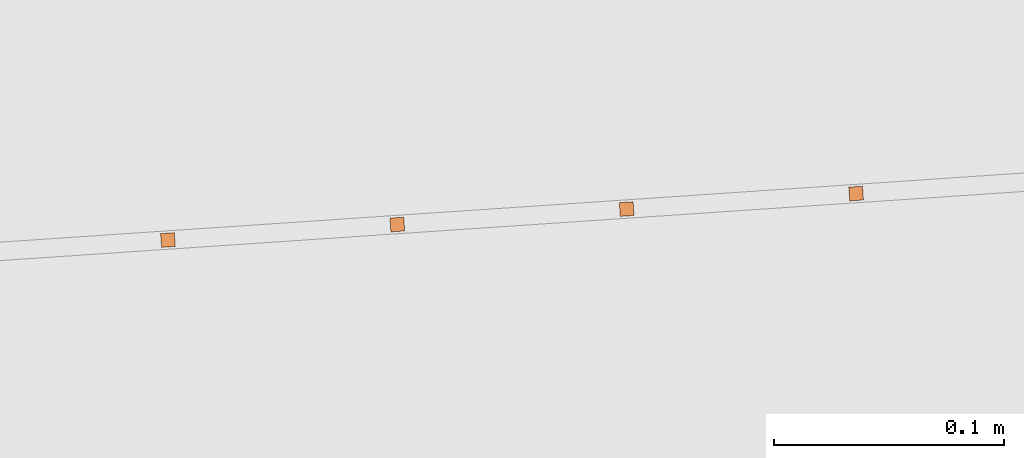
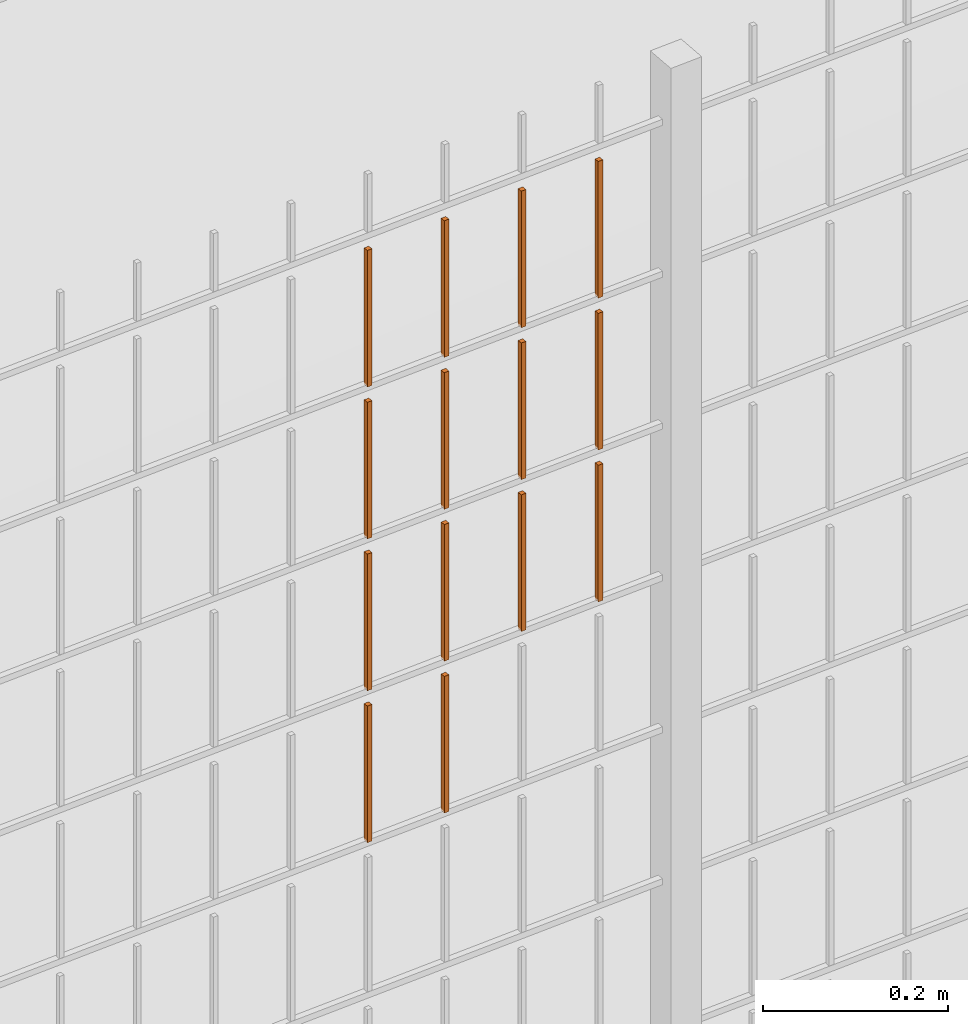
# One storey, part 218 of 1809: 14 proxies, 1 element without a shape of its own.
"""IFC2X3 building model written with IfcOpenShell, lengths in millimetres."""

import ifcopenshell
import ifcopenshell.guid

model = None  # the IFC model being written
_history = None  # IfcOwnerHistory: only IFC2X3 demands one
_inside = {}  # id of a spatial element -> (the spatial element, [elements in it])
_under = {}  # id of a project, library or spatial element -> (it, [spatial elements below it])
_declared = {}  # id of a project -> (the project, [libraries it declares])
_typed = {}  # id of a type object -> (the type object, [elements of that type])
_made_of = {}  # id of a material, layer set ... -> (it, [elements and type objects made of it])


def new_model(schema):
    """Start an empty IFC model of exactly this schema.

    Asked for "IFC4X3", IfcOpenShell would pick the latest addendum, in which some entities
    have other attributes; the version numbers below select the first issue.
    IFC2X3 requires an IfcOwnerHistory on every rooted entity: one is made here for all.
    """
    global model, _history
    if schema == "IFC4X3":
        model = ifcopenshell.file(schema_version=(4, 3, 0, 0))
    else:
        model = ifcopenshell.file(schema=schema)
    _inside.clear()
    _under.clear()
    _declared.clear()
    _typed.clear()
    _made_of.clear()
    _history = None
    if model.schema == "IFC2X3":
        org = make("IfcOrganization", Name="unknown")
        user = make(
            "IfcPersonAndOrganization",
            ThePerson=make("IfcPerson", FamilyName="unknown"),
            TheOrganization=org,
        )
        app = make(
            "IfcApplication",
            ApplicationDeveloper=org,
            Version="unknown",
            ApplicationFullName="unknown",
            ApplicationIdentifier="unknown",
        )
        _history = make(
            "IfcOwnerHistory",
            OwningUser=user,
            OwningApplication=app,
            ChangeAction="ADDED",
            CreationDate=0,
        )
    return model


def make(cls, **values):
    """One entity of the class cls with the attributes given. An attribute that is None is left unset."""
    return model.create_entity(
        cls, **{name: value for name, value in values.items() if value is not None}
    )


def entity(cls, *values):
    """Any entity or typed value of the class cls, its attributes in the order of the schema. None: left unset."""
    e = model.create_entity(cls)
    for i, value in enumerate(values):
        if value is not None:
            e[i] = value
    return e


def rooted(cls, **values):
    """An entity with a GlobalId (a new one), such as an element, a storey or a relation."""
    return make(cls, GlobalId=ifcopenshell.guid.new(), OwnerHistory=_history, **values)


def si_unit(unit_type, name, prefix=None):
    """IfcSIUnit, for example si_unit("LENGTHUNIT", "METRE", prefix="MILLI")."""
    return make("IfcSIUnit", UnitType=unit_type, Prefix=prefix, Name=name)


def converted_unit(unit_type, name, factor, base, dimensions=None, offset=None):
    """IfcConversionBasedUnit, such as the inch: factor (a typed value) times the base unit."""
    return make(
        "IfcConversionBasedUnit"
        if offset is None
        else "IfcConversionBasedUnitWithOffset",
        ConversionOffset=offset,
        Dimensions=None
        if dimensions is None
        else entity("IfcDimensionalExponents", *dimensions),
        UnitType=unit_type,
        Name=name,
        ConversionFactor=make(
            "IfcMeasureWithUnit", ValueComponent=factor, UnitComponent=base
        ),
    )


def derived_unit(unit_type, elements):
    """IfcDerivedUnit: a product of units, each with its exponent."""
    return make(
        "IfcDerivedUnit",
        Elements=[
            make("IfcDerivedUnitElement", Unit=unit, Exponent=power)
            for unit, power in elements
        ],
        UnitType=unit_type,
    )


def money_unit(currency):
    """IfcMonetaryUnit."""
    return make("IfcMonetaryUnit", Currency=currency)


def assignment(units):
    """IfcUnitAssignment: the units of a project."""
    return None if units is None else make("IfcUnitAssignment", Units=units)


def point(xyz):
    """IfcCartesianPoint."""
    return None if xyz is None else make("IfcCartesianPoint", Coordinates=xyz)


def direction(xyz):
    """IfcDirection."""
    return None if xyz is None else make("IfcDirection", DirectionRatios=xyz)


def frame(location, z_axis=None, x_axis=None):
    """IfcAxis2Placement3D, a coordinate frame: its origin and axes. An axis left out is left unset."""
    return make(
        "IfcAxis2Placement3D",
        Location=point(location),
        Axis=direction(z_axis),
        RefDirection=direction(x_axis),
    )


def origin_with_axes():
    """The frame at (0, 0, 0) with the z axis (0, 0, 1) and the x axis (1, 0, 0) written out."""
    return frame((0.0, 0.0, 0.0), z_axis=(0.0, 0.0, 1.0), x_axis=(1.0, 0.0, 0.0))


def place(relative_to, where):
    """IfcLocalPlacement: puts the frame where relative to a parent placement (None: the world)."""
    return make(
        "IfcLocalPlacement", PlacementRelTo=relative_to, RelativePlacement=where
    )


def context(
    kind, dimensions, precision=None, world=None, true_north=None, identifier=None
):
    """IfcGeometricRepresentationContext, for example the 3D "Model" context."""
    return make(
        "IfcGeometricRepresentationContext",
        ContextIdentifier=identifier,
        ContextType=kind,
        CoordinateSpaceDimension=dimensions,
        Precision=precision,
        WorldCoordinateSystem=world,
        TrueNorth=true_north,
    )


def subcontext(parent, identifier, kind, view, scale=None):
    """IfcGeometricRepresentationSubContext, for example "Body" below "Model"."""
    return make(
        "IfcGeometricRepresentationSubContext",
        ContextIdentifier=identifier,
        ContextType=kind,
        ParentContext=parent,
        TargetScale=scale,
        TargetView=view,
    )


def project(units=None, contexts=None):
    """IfcProject with its units and contexts."""
    return rooted(
        "IfcProject",
        Name="project",
        RepresentationContexts=contexts,
        UnitsInContext=assignment(units),
    )


def spatial(cls, under=None, at=None, **own):
    """A site, building, storey or space (cls), placed at a placement, below another one or the project."""
    s = rooted(cls, ObjectPlacement=at, **own)
    if under is not None:
        _under.setdefault(under.id(), (under, []))[1].append(s)
    return s


def faces_of(points, faces, orient=None, outer=None):
    """IfcFace entities. A face is a list of loops; a loop is a list of indices into points, from 0.

    orient and outer hold one flag for each loop. By default every Orientation is true, the
    first loop of a face is its IfcFaceOuterBound and the others are IfcFaceBound.
    """
    made = []
    for i, loops in enumerate(faces):
        bounds = []
        for j, loop in enumerate(loops):
            is_outer = j == 0 if outer is None else outer[i][j]
            bounds.append(
                make(
                    "IfcFaceOuterBound" if is_outer else "IfcFaceBound",
                    Bound=make("IfcPolyLoop", Polygon=[points[k] for k in loop]),
                    Orientation=True if orient is None else orient[i][j],
                )
            )
        made.append(make("IfcFace", Bounds=bounds))
    return made


def faceted_brep(points, faces, orient=None, outer=None, voids=None):
    """IfcFacetedBrep: a solid bounded by flat faces; with voids (closed shells), ...WithVoids."""
    shared = [point(p) for p in points]
    hull = make("IfcClosedShell", CfsFaces=faces_of(shared, faces, orient, outer))
    if voids is None:
        return make("IfcFacetedBrep", Outer=hull)
    return make(
        "IfcFacetedBrepWithVoids",
        Outer=hull,
        Voids=[
            make(cls, CfsFaces=faces_of(shared, fs, o, b)) for cls, fs, o, b in voids
        ],
    )


def shape(context_of_items, identifier, shape_type, items):
    """IfcShapeRepresentation: the items that make up one representation, for example the "Body"."""
    return make(
        "IfcShapeRepresentation",
        ContextOfItems=context_of_items,
        RepresentationIdentifier=identifier,
        RepresentationType=shape_type,
        Items=items,
    )


def source(mapping_origin, context_of_items, identifier, shape_type, items):
    """IfcRepresentationMap: a shape defined once, which mapped items show again and again."""
    return make(
        "IfcRepresentationMap",
        MappingOrigin=mapping_origin,
        MappedRepresentation=shape(context_of_items, identifier, shape_type, items),
    )


def transform(
    local_origin,
    x_axis=None,
    y_axis=None,
    z_axis=None,
    scale=None,
    scale2=None,
    scale3=None,
    uniform=True,
):
    """IfcCartesianTransformationOperator3D, or its non-uniform kind. x_axis, y_axis, z_axis: its Axis1, 2, 3."""
    if uniform:
        return make(
            "IfcCartesianTransformationOperator3D",
            Axis1=direction(x_axis),
            Axis2=direction(y_axis),
            LocalOrigin=point(local_origin),
            Scale=scale,
            Axis3=direction(z_axis),
        )
    return make(
        "IfcCartesianTransformationOperator3DnonUniform",
        Axis1=direction(x_axis),
        Axis2=direction(y_axis),
        LocalOrigin=point(local_origin),
        Scale=scale,
        Axis3=direction(z_axis),
        Scale2=scale2,
        Scale3=scale3,
    )


def mapped(mapping_source, mapping_target):
    """IfcMappedItem: shows the shape of a source again, moved by a transform."""
    return make(
        "IfcMappedItem", MappingSource=mapping_source, MappingTarget=mapping_target
    )


def material(Name=None, Category=None):
    """IfcMaterial."""
    return make("IfcMaterial", Name=Name, Category=Category)


def made_of(thing, what):
    """Note that an element or type object is made of a material, layer set ...; save() writes the relation."""
    if what is not None:
        _made_of.setdefault(what.id(), (what, []))[1].append(thing)
    return thing


def type_object(cls, material=None, **own):
    """A type object (cls), such as IfcWallType, which elements share."""
    return made_of(rooted(cls, **own), material)


def element(
    cls,
    number,
    at=None,
    inside=None,
    cuts=None,
    type_object=None,
    material=None,
    context=None,
    identifier="Body",
    shape_type=None,
    held_by="IfcProductDefinitionShape",
    body=None,
    shapes=None,
    **own,
):
    """One element of the class cls, such as IfcWall. Its Tag is "e" and its number.

    at: its placement. inside: the storey or other place that contains it. cuts: it is an
    opening in that element (IfcRelVoidsElement). A single representation is given by context,
    identifier, shape_type and body (its items); several are given by shapes. held_by: the class
    of the entity that holds the representations. save() writes the other relations.
    """
    e = rooted(cls, Tag="e%d" % number, ObjectPlacement=at, **own)
    if body is not None:
        shapes = [shape(context, identifier, shape_type, body)]
    if shapes is not None:
        e.Representation = make(held_by, Representations=shapes)
    if inside is not None:
        _inside.setdefault(inside.id(), (inside, []))[1].append(e)
    if cuts is not None:
        rooted(
            "IfcRelVoidsElement", RelatingBuildingElement=cuts, RelatedOpeningElement=e
        )
    if type_object is not None:
        _typed.setdefault(type_object.id(), (type_object, []))[1].append(e)
    return made_of(e, material)


def aggregate(whole, parts):
    """IfcRelAggregates: a whole, such as a stair, and the parts it consists of."""
    return rooted("IfcRelAggregates", RelatingObject=whole, RelatedObjects=parts)


def save(model, path):
    """Write the relations noted so far, then the file.

    IfcRelAggregates (storeys below a building ...), IfcRelContainedInSpatialStructure (elements
    in a storey), IfcRelDefinesByType, IfcRelAssociatesMaterial and IfcRelDeclares: one each for
    every whole, place, type object, material and project.
    """
    for whole, parts in _under.values():
        aggregate(whole, parts)
    for where, things in _inside.values():
        rooted(
            "IfcRelContainedInSpatialStructure",
            RelatedElements=things,
            RelatingStructure=where,
        )
    for kind, things in _typed.values():
        rooted("IfcRelDefinesByType", RelatedObjects=things, RelatingType=kind)
    for what, things in _made_of.values():
        rooted("IfcRelAssociatesMaterial", RelatedObjects=things, RelatingMaterial=what)
    for by, libraries in _declared.values():
        rooted("IfcRelDeclares", RelatingContext=by, RelatedDefinitions=libraries)
    model.write(path)


model = new_model("IFC2X3")

# Units and contexts
model_context = context("Model", 3, precision=0.01, world=origin_with_axes(), true_north=direction((0.0, 1.0)))
body_context = subcontext(model_context, "Body", "Model", "MODEL_VIEW")
ifc_project = project(units=[si_unit("LENGTHUNIT", "METRE", prefix="MILLI"), si_unit("AREAUNIT", "SQUARE_METRE"), si_unit("VOLUMEUNIT", "CUBIC_METRE"), converted_unit("PLANEANGLEUNIT", "DEGREE", entity("IfcPlaneAngleMeasure", 0.0174532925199), si_unit("PLANEANGLEUNIT", "RADIAN"), dimensions=[0, 0, 0, 0, 0, 0, 0]), si_unit("SOLIDANGLEUNIT", "STERADIAN"), money_unit("EUR"), converted_unit("TIMEUNIT", "Year", entity("IfcTimeMeasure", 31556926.0), si_unit("TIMEUNIT", "SECOND"), dimensions=[0, 0, 1, 0, 0, 0, 0]), si_unit("MASSUNIT", "GRAM", prefix="KILO"), si_unit("THERMODYNAMICTEMPERATUREUNIT", "DEGREE_CELSIUS"), si_unit("LUMINOUSINTENSITYUNIT", "LUMEN"), si_unit("ENERGYUNIT", "JOULE", prefix="MEGA"), derived_unit("THERMALCONDUCTANCEUNIT", [(si_unit("POWERUNIT", "WATT"), 1), (si_unit("LENGTHUNIT", "METRE"), -1), (si_unit("THERMODYNAMICTEMPERATUREUNIT", "KELVIN"), -1)]), derived_unit("SPECIFICHEATCAPACITYUNIT", [(si_unit("ENERGYUNIT", "JOULE"), 1), (si_unit("MASSUNIT", "GRAM", prefix="KILO"), -1), (si_unit("THERMODYNAMICTEMPERATUREUNIT", "KELVIN"), -1)]), derived_unit("MASSDENSITYUNIT", [(si_unit("MASSUNIT", "GRAM", prefix="KILO"), 1), (si_unit("VOLUMEUNIT", "CUBIC_METRE"), -1)])], contexts=[model_context])

# Site, building, storey
site_placement = place(None, origin_with_axes())
site = spatial("IfcSite", under=ifc_project, at=site_placement, Name="Politse- ja Piirivalveameti ning Päästeameti ühishoone", CompositionType="ELEMENT")
building_placement = place(site_placement, origin_with_axes())
building = spatial("IfcBuilding", under=site, at=building_placement, Name="Politse- ja Piirivalveameti ning Päästeameti ühishoone", CompositionType="ELEMENT")
storey_placement = place(building_placement, origin_with_axes())
storey = spatial("IfcBuildingStorey", under=building, at=storey_placement, Name="Esimene korrus", CompositionType="ELEMENT", Elevation=0.0)

# Proxies
building_element_proxy_type_1 = type_object("IfcBuildingElementProxyType", Name="Railing Type", PredefinedType="NOTDEFINED")
proxy_1_placement = place(storey_placement, frame((89252.001212, -29183.4766571, 203.661247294), z_axis=(0.0, 0.0, 1.0), x_axis=(1.0, 0.0, 0.0)))
proxy_1 = element("IfcBuildingElementProxy", 1, at=proxy_1_placement, inside=storey, type_object=building_element_proxy_type_1, Name="PIIRDEAED")
ifc_material = material(Name="ET-03_Raud")
building_element_proxy_type_2 = type_object("IfcBuildingElementProxyType", Name="IfcBuildingElementProxy", PredefinedType="NOTDEFINED")
shared_shape_1 = source(origin_with_axes(), body_context, "Body", "Brep", [
    faceted_brep([(3.0, 3.0, -0.000752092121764), (-3.0, 3.0, -0.000752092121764), (-3.0, 3.0, 179.99926046), (3.0, 3.0, 179.99926046), (3.0, -3.0, 0.000752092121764), (-3.0, -3.0, 0.000752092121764), (-3.0, -3.0, 180.000764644), (3.0, -3.0, 180.000764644)], [[[0, 1, 2, 3]], [[0, 4, 5, 1]], [[1, 5, 6, 2]], [[3, 2, 6, 7]], [[4, 0, 3, 7]], [[5, 4, 7, 6]]]),
])
proxy_2_placement = place(proxy_1_placement, frame((-60089.7644152, -21356.6115773, 1812.135713), z_axis=(0.0, 0.0, 1.0), x_axis=(1.0, 0.0, 0.0)))
proxy_2 = element("IfcBuildingElementProxy", 2, at=proxy_2_placement, type_object=building_element_proxy_type_2, material=ifc_material, Name="BALUSTER - 001", context=body_context, shape_type="MappedRepresentation", body=[
    mapped(shared_shape_1, transform((0.0, 0.0, 0.0), x_axis=(-0.0673926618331, 0.997726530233, 0.0), y_axis=(-0.997726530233, -0.0673926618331, 0.0), z_axis=(0.0, 0.0, 1.0))),
])
shared_shape_2 = source(origin_with_axes(), body_context, "Body", "Brep", [
    faceted_brep([(3.0, 3.0, -0.000752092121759), (-3.0, 3.0, -0.000752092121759), (-3.0, 3.0, 179.99926046), (3.0, 3.0, 179.99926046), (3.0, -3.0, 0.000752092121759), (-3.0, -3.0, 0.000752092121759), (-3.0, -3.0, 180.000764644), (3.0, -3.0, 180.000764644)], [[[0, 1, 2, 3]], [[0, 4, 5, 1]], [[1, 5, 6, 2]], [[3, 2, 6, 7]], [[4, 0, 3, 7]], [[5, 4, 7, 6]]]),
])
proxy_3_placement = place(proxy_1_placement, frame((-59890.2191092, -21343.1330449, 1812.18585247), z_axis=(0.0, 0.0, 1.0), x_axis=(1.0, 0.0, 0.0)))
proxy_3 = element("IfcBuildingElementProxy", 3, at=proxy_3_placement, type_object=building_element_proxy_type_2, material=ifc_material, Name="BALUSTER - 001", context=body_context, shape_type="MappedRepresentation", body=[
    mapped(shared_shape_2, transform((0.0, 0.0, 0.0), x_axis=(-0.0673926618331, 0.997726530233, 0.0), y_axis=(-0.997726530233, -0.0673926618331, 0.0), z_axis=(0.0, 0.0, 1.0))),
])
shared_shape_3 = source(origin_with_axes(), body_context, "Body", "Brep", [
    faceted_brep([(3.0, 3.0, -0.000752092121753), (-3.0, 3.0, -0.000752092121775), (-3.0, 3.0, 179.99926046), (3.0, 3.0, 179.99926046), (3.0, -3.0, 0.000752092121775), (-3.0, -3.0, 0.000752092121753), (-3.0, -3.0, 180.000764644), (3.0, -3.0, 180.000764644)], [[[0, 1, 2, 3]], [[0, 4, 5, 1]], [[1, 5, 6, 2]], [[3, 2, 6, 7]], [[4, 0, 3, 7]], [[5, 4, 7, 6]]]),
])
proxy_4_placement = place(proxy_1_placement, frame((-59989.9917622, -21349.8723111, 1212.16078273), z_axis=(0.0, 0.0, 1.0), x_axis=(1.0, 0.0, 0.0)))
proxy_4 = element("IfcBuildingElementProxy", 4, at=proxy_4_placement, type_object=building_element_proxy_type_2, material=ifc_material, Name="BALUSTER - 001", context=body_context, shape_type="MappedRepresentation", body=[
    mapped(shared_shape_3, transform((0.0, 0.0, 0.0), x_axis=(-0.0673926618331, 0.997726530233, 0.0), y_axis=(-0.997726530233, -0.0673926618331, 0.0), z_axis=(0.0, 0.0, 1.0))),
])
shared_shape_4 = source(origin_with_axes(), body_context, "Body", "Brep", [
    faceted_brep([(3.0, 3.0, -0.000752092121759), (-3.0, 3.0, -0.000752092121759), (-3.0, 3.0, 179.99926046), (3.0, 3.0, 179.99926046), (3.0, -3.0, 0.000752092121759), (-3.0, -3.0, 0.000752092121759), (-3.0, -3.0, 180.000764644), (3.0, -3.0, 180.000764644)], [[[0, 1, 2, 3]], [[0, 4, 5, 1]], [[1, 5, 6, 2]], [[3, 2, 6, 7]], [[4, 0, 3, 7]], [[5, 4, 7, 6]]]),
])
proxy_5_placement = place(proxy_1_placement, frame((-59890.2191092, -21343.1330449, 1412.18585247), z_axis=(0.0, 0.0, 1.0), x_axis=(1.0, 0.0, 0.0)))
proxy_5 = element("IfcBuildingElementProxy", 5, at=proxy_5_placement, type_object=building_element_proxy_type_2, material=ifc_material, Name="BALUSTER - 001", context=body_context, shape_type="MappedRepresentation", body=[
    mapped(shared_shape_4, transform((0.0, 0.0, 0.0), x_axis=(-0.0673926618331, 0.997726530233, 0.0), y_axis=(-0.997726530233, -0.0673926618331, 0.0), z_axis=(0.0, 0.0, 1.0))),
])
proxy_6_placement = place(proxy_1_placement, frame((-59890.2191092, -21343.1330449, 1612.18585247), z_axis=(0.0, 0.0, 1.0), x_axis=(1.0, 0.0, 0.0)))
proxy_6 = element("IfcBuildingElementProxy", 6, at=proxy_6_placement, type_object=building_element_proxy_type_2, material=ifc_material, Name="BALUSTER - 001", context=body_context, shape_type="MappedRepresentation", body=[
    mapped(shared_shape_4, transform((0.0, 0.0, 0.0), x_axis=(-0.0673926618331, 0.997726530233, 0.0), y_axis=(-0.997726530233, -0.0673926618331, 0.0), z_axis=(0.0, 0.0, 1.0))),
])
shared_shape_5 = source(origin_with_axes(), body_context, "Body", "Brep", [
    faceted_brep([(3.0, 3.0, -0.000752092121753), (-3.0, 3.0, -0.000752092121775), (-3.0, 3.0, 179.99926046), (3.0, 3.0, 179.99926046), (3.0, -3.0, 0.000752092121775), (-3.0, -3.0, 0.000752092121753), (-3.0, -3.0, 180.000764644), (3.0, -3.0, 180.000764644)], [[[0, 1, 2, 3]], [[0, 4, 5, 1]], [[1, 5, 6, 2]], [[3, 2, 6, 7]], [[4, 0, 3, 7]], [[5, 4, 7, 6]]]),
])
proxy_7_placement = place(proxy_1_placement, frame((-59989.9917622, -21349.8723111, 1412.16078273), z_axis=(0.0, 0.0, 1.0), x_axis=(1.0, 0.0, 0.0)))
proxy_7 = element("IfcBuildingElementProxy", 7, at=proxy_7_placement, type_object=building_element_proxy_type_2, material=ifc_material, Name="BALUSTER - 001", context=body_context, shape_type="MappedRepresentation", body=[
    mapped(shared_shape_5, transform((0.0, 0.0, 0.0), x_axis=(-0.0673926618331, 0.997726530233, 0.0), y_axis=(-0.997726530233, -0.0673926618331, 0.0), z_axis=(0.0, 0.0, 1.0))),
])
proxy_8_placement = place(proxy_1_placement, frame((-59989.9917622, -21349.8723111, 1612.16078273), z_axis=(0.0, 0.0, 1.0), x_axis=(1.0, 0.0, 0.0)))
proxy_8 = element("IfcBuildingElementProxy", 8, at=proxy_8_placement, type_object=building_element_proxy_type_2, material=ifc_material, Name="BALUSTER - 001", context=body_context, shape_type="MappedRepresentation", body=[
    mapped(shared_shape_5, transform((0.0, 0.0, 0.0), x_axis=(-0.0673926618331, 0.997726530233, 0.0), y_axis=(-0.997726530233, -0.0673926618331, 0.0), z_axis=(0.0, 0.0, 1.0))),
])
shared_shape_6 = source(origin_with_axes(), body_context, "Body", "Brep", [
    faceted_brep([(3.0, 3.0, -0.000752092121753), (-3.0, 3.0, -0.000752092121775), (-3.0, 3.0, 179.99926046), (3.0, 3.0, 179.99926046), (3.0, -3.0, 0.000752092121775), (-3.0, -3.0, 0.000752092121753), (-3.0, -3.0, 180.000764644), (3.0, -3.0, 180.000764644)], [[[0, 1, 2, 3]], [[0, 4, 5, 1]], [[1, 5, 6, 2]], [[3, 2, 6, 7]], [[4, 0, 3, 7]], [[5, 4, 7, 6]]]),
])
proxy_9_placement = place(proxy_1_placement, frame((-59989.9917622, -21349.8723111, 1812.16078273), z_axis=(0.0, 0.0, 1.0), x_axis=(1.0, 0.0, 0.0)))
proxy_9 = element("IfcBuildingElementProxy", 9, at=proxy_9_placement, type_object=building_element_proxy_type_2, material=ifc_material, Name="BALUSTER - 001", context=body_context, shape_type="MappedRepresentation", body=[
    mapped(shared_shape_6, transform((0.0, 0.0, 0.0), x_axis=(-0.0673926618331, 0.997726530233, 0.0), y_axis=(-0.997726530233, -0.0673926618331, 0.0), z_axis=(0.0, 0.0, 1.0))),
])
shared_shape_7 = source(origin_with_axes(), body_context, "Body", "Brep", [
    faceted_brep([(3.0, 3.0, -0.000752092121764), (-3.0, 3.0, -0.000752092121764), (-3.0, 3.0, 179.99926046), (3.0, 3.0, 179.99926046), (3.0, -3.0, 0.000752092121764), (-3.0, -3.0, 0.000752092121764), (-3.0, -3.0, 180.000764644), (3.0, -3.0, 180.000764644)], [[[0, 1, 2, 3]], [[0, 4, 5, 1]], [[1, 5, 6, 2]], [[3, 2, 6, 7]], [[4, 0, 3, 7]], [[5, 4, 7, 6]]]),
])
proxy_10_placement = place(proxy_1_placement, frame((-60089.7644152, -21356.6115773, 1212.135713), z_axis=(0.0, 0.0, 1.0), x_axis=(1.0, 0.0, 0.0)))
proxy_10 = element("IfcBuildingElementProxy", 10, at=proxy_10_placement, type_object=building_element_proxy_type_2, material=ifc_material, Name="BALUSTER - 001", context=body_context, shape_type="MappedRepresentation", body=[
    mapped(shared_shape_7, transform((0.0, 0.0, 0.0), x_axis=(-0.0673926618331, 0.997726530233, 0.0), y_axis=(-0.997726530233, -0.0673926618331, 0.0), z_axis=(0.0, 0.0, 1.0))),
])
shared_shape_8 = source(origin_with_axes(), body_context, "Body", "Brep", [
    faceted_brep([(3.0, 3.0, -0.000752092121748), (-3.0, 3.0, -0.00075209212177), (-3.0, 3.0, 179.99926046), (3.0, 3.0, 179.99926046), (3.0, -3.0, 0.00075209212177), (-3.0, -3.0, 0.000752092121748), (-3.0, -3.0, 180.000764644), (3.0, -3.0, 180.000764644)], [[[0, 1, 2, 3]], [[0, 4, 5, 1]], [[1, 5, 6, 2]], [[3, 2, 6, 7]], [[4, 0, 3, 7]], [[5, 4, 7, 6]]]),
])
proxy_11_placement = place(proxy_1_placement, frame((-59790.4464561, -21336.3937787, 1812.21092221), z_axis=(0.0, 0.0, 1.0), x_axis=(1.0, 0.0, 0.0)))
proxy_11 = element("IfcBuildingElementProxy", 11, at=proxy_11_placement, type_object=building_element_proxy_type_2, material=ifc_material, Name="BALUSTER - 001", context=body_context, shape_type="MappedRepresentation", body=[
    mapped(shared_shape_8, transform((0.0, 0.0, 0.0), x_axis=(-0.0673926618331, 0.997726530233, 0.0), y_axis=(-0.997726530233, -0.0673926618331, 0.0), z_axis=(0.0, 0.0, 1.0))),
])
shared_shape_9 = source(origin_with_axes(), body_context, "Body", "Brep", [
    faceted_brep([(3.0, 3.0, -0.000752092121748), (-3.0, 3.0, -0.00075209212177), (-3.0, 3.0, 179.99926046), (3.0, 3.0, 179.99926046), (3.0, -3.0, 0.00075209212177), (-3.0, -3.0, 0.000752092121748), (-3.0, -3.0, 180.000764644), (3.0, -3.0, 180.000764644)], [[[0, 1, 2, 3]], [[0, 4, 5, 1]], [[1, 5, 6, 2]], [[3, 2, 6, 7]], [[4, 0, 3, 7]], [[5, 4, 7, 6]]]),
])
proxy_12_placement = place(proxy_1_placement, frame((-59790.4464561, -21336.3937787, 1412.21092221), z_axis=(0.0, 0.0, 1.0), x_axis=(1.0, 0.0, 0.0)))
proxy_12 = element("IfcBuildingElementProxy", 12, at=proxy_12_placement, type_object=building_element_proxy_type_2, material=ifc_material, Name="BALUSTER - 001", context=body_context, shape_type="MappedRepresentation", body=[
    mapped(shared_shape_9, transform((0.0, 0.0, 0.0), x_axis=(-0.0673926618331, 0.997726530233, 0.0), y_axis=(-0.997726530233, -0.0673926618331, 0.0), z_axis=(0.0, 0.0, 1.0))),
])
proxy_13_placement = place(proxy_1_placement, frame((-59790.4464561, -21336.3937787, 1612.21092221), z_axis=(0.0, 0.0, 1.0), x_axis=(1.0, 0.0, 0.0)))
proxy_13 = element("IfcBuildingElementProxy", 13, at=proxy_13_placement, type_object=building_element_proxy_type_2, material=ifc_material, Name="BALUSTER - 001", context=body_context, shape_type="MappedRepresentation", body=[
    mapped(shared_shape_9, transform((0.0, 0.0, 0.0), x_axis=(-0.0673926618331, 0.997726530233, 0.0), y_axis=(-0.997726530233, -0.0673926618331, 0.0), z_axis=(0.0, 0.0, 1.0))),
])
shared_shape_10 = source(origin_with_axes(), body_context, "Body", "Brep", [
    faceted_brep([(3.0, 3.0, -0.000752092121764), (-3.0, 3.0, -0.000752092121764), (-3.0, 3.0, 179.99926046), (3.0, 3.0, 179.99926046), (3.0, -3.0, 0.000752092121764), (-3.0, -3.0, 0.000752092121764), (-3.0, -3.0, 180.000764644), (3.0, -3.0, 180.000764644)], [[[0, 1, 2, 3]], [[0, 4, 5, 1]], [[1, 5, 6, 2]], [[3, 2, 6, 7]], [[4, 0, 3, 7]], [[5, 4, 7, 6]]]),
])
proxy_14_placement = place(proxy_1_placement, frame((-60089.7644152, -21356.6115773, 1412.135713), z_axis=(0.0, 0.0, 1.0), x_axis=(1.0, 0.0, 0.0)))
proxy_14 = element("IfcBuildingElementProxy", 14, at=proxy_14_placement, type_object=building_element_proxy_type_2, material=ifc_material, Name="BALUSTER - 001", context=body_context, shape_type="MappedRepresentation", body=[
    mapped(shared_shape_10, transform((0.0, 0.0, 0.0), x_axis=(-0.0673926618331, 0.997726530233, 0.0), y_axis=(-0.997726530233, -0.0673926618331, 0.0), z_axis=(0.0, 0.0, 1.0))),
])
proxy_15_placement = place(proxy_1_placement, frame((-60089.7644152, -21356.6115773, 1612.135713), z_axis=(0.0, 0.0, 1.0), x_axis=(1.0, 0.0, 0.0)))
proxy_15 = element("IfcBuildingElementProxy", 15, at=proxy_15_placement, type_object=building_element_proxy_type_2, material=ifc_material, Name="BALUSTER - 001", context=body_context, shape_type="MappedRepresentation", body=[
    mapped(shared_shape_10, transform((0.0, 0.0, 0.0), x_axis=(-0.0673926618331, 0.997726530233, 0.0), y_axis=(-0.997726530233, -0.0673926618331, 0.0), z_axis=(0.0, 0.0, 1.0))),
])
aggregate(proxy_1, [proxy_4, proxy_10, proxy_12, proxy_5, proxy_7, proxy_14, proxy_13, proxy_6, proxy_8, proxy_15, proxy_11, proxy_3, proxy_9, proxy_2])

save(model, "model.ifc")
